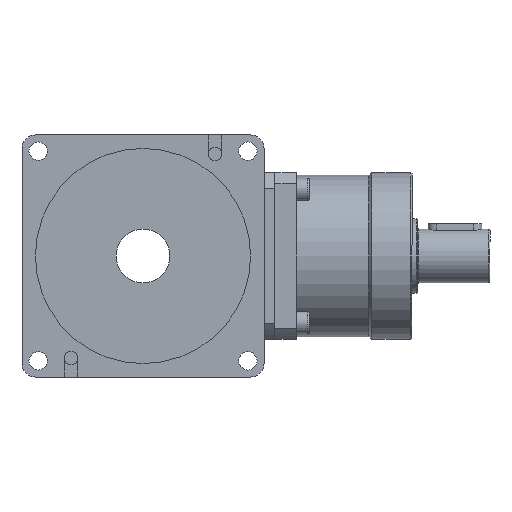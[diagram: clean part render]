
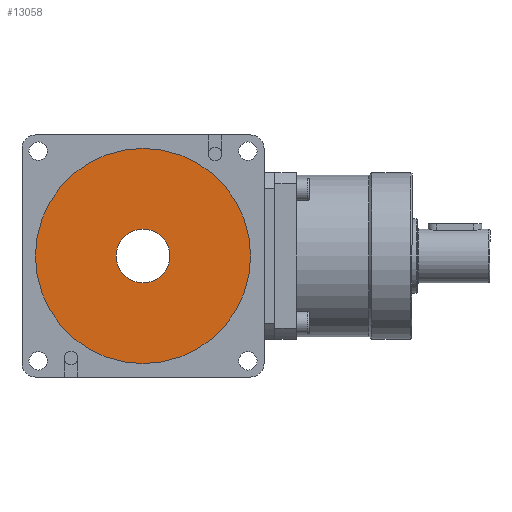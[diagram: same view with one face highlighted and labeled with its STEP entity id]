
A CAD part, left-side view. The second image highlights one B-rep face of the part: STEP entity #13058.
In plain terms, the highlighted planar face has unit normal (-1, 0, 0).
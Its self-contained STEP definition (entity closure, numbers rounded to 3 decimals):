
#223 = CARTESIAN_POINT ( 'NONE',  ( -31.5, 0., 0. ) ) ;
#864 = VERTEX_POINT ( 'NONE', #12226 ) ;
#966 = VERTEX_POINT ( 'NONE', #2647 ) ;
#1705 = DIRECTION ( 'NONE',  ( 0., 0., 1. ) ) ;
#1912 = CIRCLE ( 'NONE', #2613, 10. ) ;
#2564 = PLANE ( 'NONE',  #6880 ) ;
#2613 = AXIS2_PLACEMENT_3D ( 'NONE', #8286, #12525, #4706 ) ;
#2647 = CARTESIAN_POINT ( 'NONE',  ( -31.5, 0., 40. ) ) ;
#3363 = CIRCLE ( 'NONE', #4530, 40. ) ;
#3712 = CARTESIAN_POINT ( 'NONE',  ( -31.5, 0., 0. ) ) ;
#3738 = DIRECTION ( 'NONE',  ( -1., 0., 0. ) ) ;
#3761 = ORIENTED_EDGE ( 'NONE', *, *, #5787, .F. ) ;
#4213 = EDGE_CURVE ( 'NONE', #8112, #966, #5546, .T. ) ;
#4530 = AXIS2_PLACEMENT_3D ( 'NONE', #6170, #5077, #1705 ) ;
#4706 = DIRECTION ( 'NONE',  ( 0., 0., 1. ) ) ;
#4845 = AXIS2_PLACEMENT_3D ( 'NONE', #3712, #5826, #10349 ) ;
#5077 = DIRECTION ( 'NONE',  ( -1., 0., 0. ) ) ;
#5546 = CIRCLE ( 'NONE', #4845, 40. ) ;
#5787 = EDGE_CURVE ( 'NONE', #864, #7022, #1912, .T. ) ;
#5826 = DIRECTION ( 'NONE',  ( -1., 0., 0. ) ) ;
#6170 = CARTESIAN_POINT ( 'NONE',  ( -31.5, 0., 0. ) ) ;
#6265 = EDGE_LOOP ( 'NONE', ( #8662, #10446 ) ) ;
#6880 = AXIS2_PLACEMENT_3D ( 'NONE', #223, #3738, #7015 ) ;
#7015 = DIRECTION ( 'NONE',  ( 0., 0., 1. ) ) ;
#7022 = VERTEX_POINT ( 'NONE', #10271 ) ;
#8112 = VERTEX_POINT ( 'NONE', #11227 ) ;
#8120 = FACE_OUTER_BOUND ( 'NONE', #6265, .T. ) ;
#8286 = CARTESIAN_POINT ( 'NONE',  ( -31.5, 0., 0. ) ) ;
#8473 = AXIS2_PLACEMENT_3D ( 'NONE', #9704, #10475, #13694 ) ;
#8662 = ORIENTED_EDGE ( 'NONE', *, *, #10054, .T. ) ;
#9636 = CIRCLE ( 'NONE', #8473, 10. ) ;
#9704 = CARTESIAN_POINT ( 'NONE',  ( -31.5, 0., 0. ) ) ;
#9823 = EDGE_CURVE ( 'NONE', #7022, #864, #9636, .T. ) ;
#10054 = EDGE_CURVE ( 'NONE', #966, #8112, #3363, .T. ) ;
#10237 = FACE_BOUND ( 'NONE', #11346, .T. ) ;
#10271 = CARTESIAN_POINT ( 'NONE',  ( -31.5, 0., -10. ) ) ;
#10349 = DIRECTION ( 'NONE',  ( 0., 0., 1. ) ) ;
#10446 = ORIENTED_EDGE ( 'NONE', *, *, #4213, .T. ) ;
#10475 = DIRECTION ( 'NONE',  ( -1., 0., 0. ) ) ;
#11227 = CARTESIAN_POINT ( 'NONE',  ( -31.5, 0., -40. ) ) ;
#11346 = EDGE_LOOP ( 'NONE', ( #14317, #3761 ) ) ;
#12226 = CARTESIAN_POINT ( 'NONE',  ( -31.5, 0., 10. ) ) ;
#12525 = DIRECTION ( 'NONE',  ( -1., 0., 0. ) ) ;
#13058 = ADVANCED_FACE ( 'NONE', ( #10237, #8120 ), #2564, .T. ) ;
#13694 = DIRECTION ( 'NONE',  ( 0., 0., 1. ) ) ;
#14317 = ORIENTED_EDGE ( 'NONE', *, *, #9823, .F. ) ;
